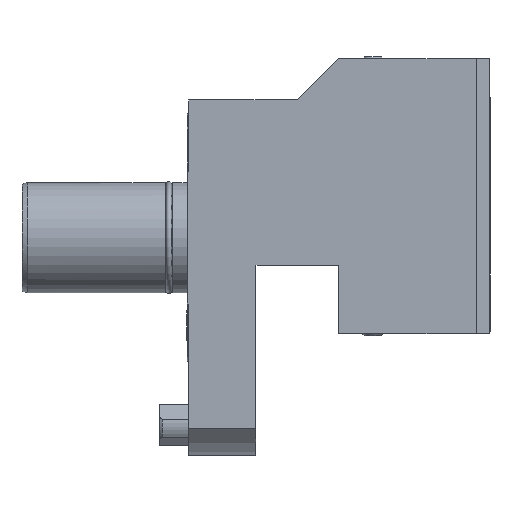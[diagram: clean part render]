
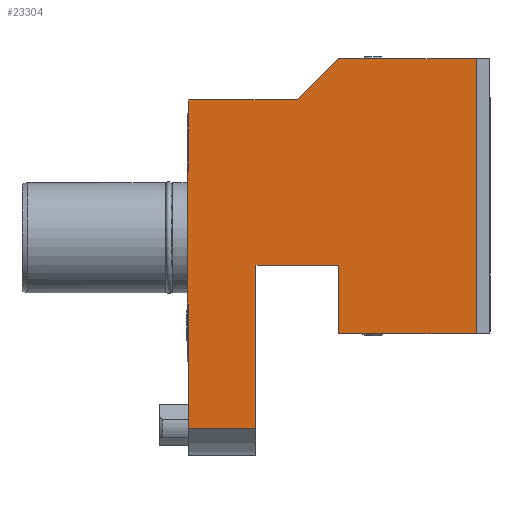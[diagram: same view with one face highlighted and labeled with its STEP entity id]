
A CAD part, front view. The second image highlights one B-rep face of the part: STEP entity #23304.
In plain terms, the highlighted planar face has unit normal (0, -1, 0).
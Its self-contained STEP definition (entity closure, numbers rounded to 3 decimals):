
#9582=VECTOR('',#16652,1.);
#9584=VECTOR('',#16662,1.);
#9585=VECTOR('',#16663,1.);
#9586=VECTOR('',#16664,1.);
#9587=VECTOR('',#16665,1.);
#9588=VECTOR('',#16666,1.);
#9589=VECTOR('',#16667,1.);
#9590=VECTOR('',#16668,1.);
#9591=VECTOR('',#16669,1.);
#9592=VECTOR('',#16670,1.);
#9593=VECTOR('',#16671,1.);
#9594=VECTOR('',#16672,1.);
#9595=VECTOR('',#16673,1.);
#9596=VECTOR('',#16674,1.);
#9984=LINE('',#18644,#9582);
#9986=LINE('',#18655,#9584);
#9987=LINE('',#18657,#9585);
#9988=LINE('',#18659,#9586);
#9989=LINE('',#18661,#9587);
#9990=LINE('',#18662,#9588);
#9991=LINE('',#18664,#9589);
#9992=LINE('',#18666,#9590);
#9993=LINE('',#18668,#9591);
#9994=LINE('',#18670,#9592);
#9995=LINE('',#18672,#9593);
#9996=LINE('',#18674,#9594);
#9997=LINE('',#18676,#9595);
#9998=LINE('',#18677,#9596);
#11574=ORIENTED_EDGE('',*,*,#13586,.T.);
#11575=ORIENTED_EDGE('',*,*,#13587,.T.);
#11576=ORIENTED_EDGE('',*,*,#13588,.T.);
#11577=ORIENTED_EDGE('',*,*,#13589,.F.);
#11578=ORIENTED_EDGE('',*,*,#13590,.T.);
#11579=ORIENTED_EDGE('',*,*,#13581,.F.);
#11580=ORIENTED_EDGE('',*,*,#13591,.T.);
#11581=ORIENTED_EDGE('',*,*,#13592,.F.);
#11582=ORIENTED_EDGE('',*,*,#13593,.T.);
#11583=ORIENTED_EDGE('',*,*,#13594,.T.);
#11584=ORIENTED_EDGE('',*,*,#13595,.T.);
#11585=ORIENTED_EDGE('',*,*,#13596,.T.);
#11586=ORIENTED_EDGE('',*,*,#13597,.T.);
#11587=ORIENTED_EDGE('',*,*,#13598,.T.);
#12756=VERTEX_POINT('',#18642);
#12757=VERTEX_POINT('',#18643);
#12761=VERTEX_POINT('',#18653);
#12762=VERTEX_POINT('',#18654);
#12763=VERTEX_POINT('',#18656);
#12764=VERTEX_POINT('',#18658);
#12765=VERTEX_POINT('',#18660);
#12766=VERTEX_POINT('',#18663);
#12767=VERTEX_POINT('',#18665);
#12768=VERTEX_POINT('',#18667);
#12769=VERTEX_POINT('',#18669);
#12770=VERTEX_POINT('',#18671);
#12771=VERTEX_POINT('',#18673);
#12772=VERTEX_POINT('',#18675);
#13581=EDGE_CURVE('',#12756,#12757,#9984,.T.);
#13586=EDGE_CURVE('',#12761,#12762,#9986,.T.);
#13587=EDGE_CURVE('',#12762,#12763,#9987,.T.);
#13588=EDGE_CURVE('',#12763,#12764,#9988,.T.);
#13589=EDGE_CURVE('',#12765,#12764,#9989,.T.);
#13590=EDGE_CURVE('',#12765,#12757,#9990,.T.);
#13591=EDGE_CURVE('',#12756,#12766,#9991,.T.);
#13592=EDGE_CURVE('',#12767,#12766,#9992,.T.);
#13593=EDGE_CURVE('',#12767,#12768,#9993,.T.);
#13594=EDGE_CURVE('',#12768,#12769,#9994,.T.);
#13595=EDGE_CURVE('',#12769,#12770,#9995,.T.);
#13596=EDGE_CURVE('',#12770,#12771,#9996,.T.);
#13597=EDGE_CURVE('',#12771,#12772,#9997,.T.);
#13598=EDGE_CURVE('',#12772,#12761,#9998,.T.);
#14169=EDGE_LOOP('',(#11574,#11575,#11576,#11577,#11578,#11579,#11580,#11581,
#11582,#11583,#11584,#11585,#11586,#11587));
#14702=FACE_BOUND('',#14169,.T.);
#16652=DIRECTION('',(-48.208,0.,0.));
#16660=DIRECTION('',(0.,-1.,0.));
#16661=DIRECTION('',(-1.,0.,0.));
#16662=DIRECTION('',(0.,0.,-50.));
#16663=DIRECTION('',(15.,0.,-15.));
#16664=DIRECTION('',(0.,0.,-39.5));
#16665=DIRECTION('',(-25.896,0.,0.));
#16666=DIRECTION('',(0.,0.,-0.5));
#16667=DIRECTION('',(0.,0.,0.5));
#16668=DIRECTION('',(-45.156,0.,0.));
#16669=DIRECTION('',(0.,0.,24.5));
#16670=DIRECTION('',(-59.26,0.,0.));
#16671=DIRECTION('',(0.,0.,30.));
#16672=DIRECTION('',(25.,0.,0.));
#16673=DIRECTION('',(0.,0.,50.));
#16674=DIRECTION('',(-100.,0.,0.));
#18642=CARTESIAN_POINT('',(24.104,-38.,60.));
#18643=CARTESIAN_POINT('',(-24.104,-38.,60.));
#18644=CARTESIAN_POINT('',(24.104,-38.,60.));
#18652=CARTESIAN_POINT('',(69.26,-38.,60.5));
#18653=CARTESIAN_POINT('',(-65.,-38.,165.));
#18654=CARTESIAN_POINT('',(-65.,-38.,115.));
#18655=CARTESIAN_POINT('',(-65.,-38.,165.));
#18656=CARTESIAN_POINT('',(-50.,-38.,100.));
#18657=CARTESIAN_POINT('',(-65.,-38.,115.));
#18658=CARTESIAN_POINT('',(-50.,-38.,60.5));
#18659=CARTESIAN_POINT('',(-50.,-38.,100.));
#18660=CARTESIAN_POINT('',(-24.104,-38.,60.5));
#18661=CARTESIAN_POINT('',(-24.104,-38.,60.5));
#18662=CARTESIAN_POINT('',(-24.104,-38.,60.5));
#18663=CARTESIAN_POINT('',(24.104,-38.,60.5));
#18664=CARTESIAN_POINT('',(24.104,-38.,60.));
#18665=CARTESIAN_POINT('',(69.26,-38.,60.5));
#18666=CARTESIAN_POINT('',(69.26,-38.,60.5));
#18667=CARTESIAN_POINT('',(69.26,-38.,85.));
#18668=CARTESIAN_POINT('',(69.26,-38.,60.5));
#18669=CARTESIAN_POINT('',(10.,-38.,85.));
#18670=CARTESIAN_POINT('',(69.26,-38.,85.));
#18671=CARTESIAN_POINT('',(10.,-38.,115.));
#18672=CARTESIAN_POINT('',(10.,-38.,85.));
#18673=CARTESIAN_POINT('',(35.,-38.,115.));
#18674=CARTESIAN_POINT('',(10.,-38.,115.));
#18675=CARTESIAN_POINT('',(35.,-38.,165.));
#18676=CARTESIAN_POINT('',(35.,-38.,115.));
#18677=CARTESIAN_POINT('',(35.,-38.,165.));
#22558=AXIS2_PLACEMENT_3D('',#18652,#16660,#16661);
#22939=PLANE('',#22558);
#23304=ADVANCED_FACE('',(#14702),#22939,.T.);
